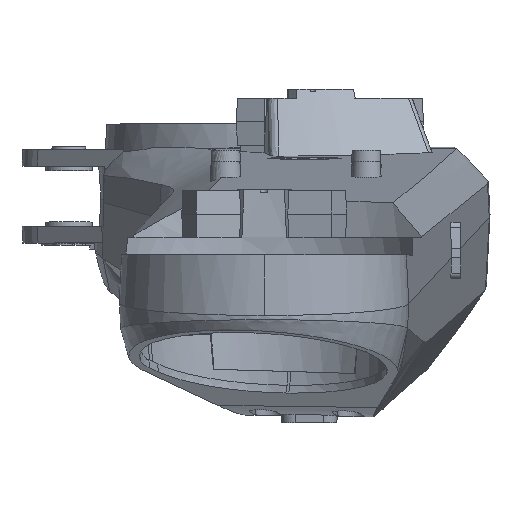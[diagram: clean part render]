
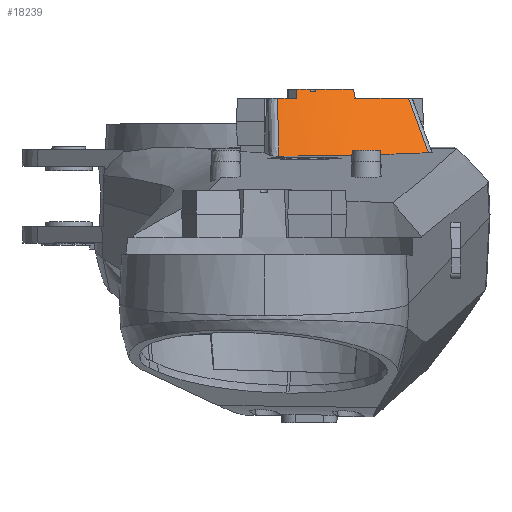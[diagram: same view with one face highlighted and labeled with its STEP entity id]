
A CAD part, top view. The second image highlights one B-rep face of the part: STEP entity #18239.
In plain terms, the highlighted conical face has half-angle 30 degrees and reference radius 286 mm.
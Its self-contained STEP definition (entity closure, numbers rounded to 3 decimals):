
#270 = CARTESIAN_POINT ( 'NONE',  ( 480.838, -108.257, 1029.136 ) ) ;
#528 = VERTEX_POINT ( 'NONE', #1010 ) ;
#742 = CARTESIAN_POINT ( 'NONE',  ( 334.584, -107.32, 1075.64 ) ) ;
#1010 = CARTESIAN_POINT ( 'NONE',  ( 334.154, -90., 1065.65 ) ) ;
#1229 = DIRECTION ( 'NONE',  ( 1., 0., 0. ) ) ;
#2247 = VERTEX_POINT ( 'NONE', #20895 ) ;
#2693 = CIRCLE ( 'NONE', #19012, 280.226 ) ;
#3782 = CARTESIAN_POINT ( 'NONE',  ( 354.605, -80., 1058.082 ) ) ;
#3928 = CARTESIAN_POINT ( 'NONE',  ( 487.899, -127.616, 1037.879 ) ) ;
#4021 = CARTESIAN_POINT ( 'NONE',  ( 354.773, -86.667, 1061.939 ) ) ;
#4263 = CARTESIAN_POINT ( 'NONE',  ( 369.513, -83., 1057.577 ) ) ;
#4275 = EDGE_CURVE ( 'NONE', #17593, #12402, #15881, .T. ) ;
#4629 = CARTESIAN_POINT ( 'NONE',  ( 334.154, -90., 1065.65 ) ) ;
#5232 = CIRCLE ( 'NONE', #13001, 281.959 ) ;
#5455 = CARTESIAN_POINT ( 'NONE',  ( 369.513, -82., 1056.991 ) ) ;
#5495 = B_SPLINE_CURVE_WITH_KNOTS ( 'NONE', 3,
 ( #15692, #39010, #5455, #5683 ),
 .UNSPECIFIED., .F., .F.,
 ( 4, 4 ),
 ( 0.077, 0.08 ),
 .UNSPECIFIED. ) ;
#5497 = CARTESIAN_POINT ( 'NONE',  ( 320., -83., 780. ) ) ;
#5588 = EDGE_CURVE ( 'NONE', #26922, #2247, #39553, .T. ) ;
#5618 = VERTEX_POINT ( 'NONE', #15108 ) ;
#5683 = CARTESIAN_POINT ( 'NONE',  ( 369.513, -83., 1057.577 ) ) ;
#5881 = CIRCLE ( 'NONE', #44769, 286. ) ;
#6285 = ORIENTED_EDGE ( 'NONE', *, *, #4275, .F. ) ;
#6429 = LINE ( 'NONE', #28810, #40042 ) ;
#6474 = CONICAL_SURFACE ( 'NONE', #25897, 286., 0.524 ) ;
#6539 = CARTESIAN_POINT ( 'NONE',  ( 320., -90., 780. ) ) ;
#7809 = ORIENTED_EDGE ( 'NONE', *, *, #42385, .F. ) ;
#7839 = DIRECTION ( 'NONE',  ( -1., 0., 0. ) ) ;
#8059 = EDGE_CURVE ( 'NONE', #42364, #43489, #6429, .T. ) ;
#8425 = AXIS2_PLACEMENT_3D ( 'NONE', #16544, #35517, #1229 ) ;
#9005 = VERTEX_POINT ( 'NONE', #4263 ) ;
#9262 = EDGE_CURVE ( 'NONE', #528, #9921, #28204, .T. ) ;
#9586 = DIRECTION ( 'NONE',  ( 0.17, -0.866, 0.47 ) ) ;
#9663 = ORIENTED_EDGE ( 'NONE', *, *, #35310, .T. ) ;
#9914 = ORIENTED_EDGE ( 'NONE', *, *, #32998, .T. ) ;
#9921 = VERTEX_POINT ( 'NONE', #42025 ) ;
#10389 = DIRECTION ( 'NONE',  ( 0., -1., 0. ) ) ;
#11290 = B_SPLINE_CURVE_WITH_KNOTS ( 'NONE', 3,
 ( #3782, #22761, #4021, #18637 ),
 .UNSPECIFIED., .F., .F.,
 ( 4, 4 ),
 ( 0.086, 0.097 ),
 .UNSPECIFIED. ) ;
#12402 = VERTEX_POINT ( 'NONE', #21432 ) ;
#13001 = AXIS2_PLACEMENT_3D ( 'NONE', #5497, #34463, #38823 ) ;
#13700 = CARTESIAN_POINT ( 'NONE',  ( 495.354, -148.077, 1047.116 ) ) ;
#14273 = CARTESIAN_POINT ( 'NONE',  ( 320., -90., 780. ) ) ;
#15108 = CARTESIAN_POINT ( 'NONE',  ( 374.513, -83., 1056.639 ) ) ;
#15692 = CARTESIAN_POINT ( 'NONE',  ( 369.513, -80., 1055.818 ) ) ;
#15881 = CIRCLE ( 'NONE', #27546, 280.226 ) ;
#15981 = CARTESIAN_POINT ( 'NONE',  ( 320., -80., 780. ) ) ;
#16090 = CARTESIAN_POINT ( 'NONE',  ( 320., -80., 780. ) ) ;
#16494 = CARTESIAN_POINT ( 'NONE',  ( 374.513, -83., 1056.639 ) ) ;
#16544 = CARTESIAN_POINT ( 'NONE',  ( 320., -90., 780. ) ) ;
#16734 = CARTESIAN_POINT ( 'NONE',  ( 374.513, -81., 1055.462 ) ) ;
#17355 = CARTESIAN_POINT ( 'NONE',  ( 415.335, -80., 1043.511 ) ) ;
#17593 = VERTEX_POINT ( 'NONE', #31486 ) ;
#17707 = CARTESIAN_POINT ( 'NONE',  ( 374.513, -80., 1054.873 ) ) ;
#18239 = ADVANCED_FACE ( 'NONE', ( #47610 ), #6474, .T. ) ;
#18637 = CARTESIAN_POINT ( 'NONE',  ( 354.857, -90., 1063.868 ) ) ;
#18781 = CARTESIAN_POINT ( 'NONE',  ( 474.174, -90., 1020.887 ) ) ;
#19012 = AXIS2_PLACEMENT_3D ( 'NONE', #16090, #30920, #7839 ) ;
#20028 =( BOUNDED_CURVE ( )  B_SPLINE_CURVE ( 3, ( #13700, #28541, #35843, #46549 ),
 .UNSPECIFIED., .F., .T. ) 
 B_SPLINE_CURVE_WITH_KNOTS ( ( 4, 4 ),
 ( 5.68, 6.232 ),
 .UNSPECIFIED. ) 
 CURVE ( )  GEOMETRIC_REPRESENTATION_ITEM ( )  RATIONAL_B_SPLINE_CURVE ( ( 1., 0.975, 0.975, 1. ) ) 
 REPRESENTATION_ITEM ( '' )  );
#20054 = ORIENTED_EDGE ( 'NONE', *, *, #8059, .F. ) ;
#20127 = DIRECTION ( 'NONE',  ( -1., 0., 0. ) ) ;
#20895 = CARTESIAN_POINT ( 'NONE',  ( 474.174, -90., 1020.887 ) ) ;
#21432 = CARTESIAN_POINT ( 'NONE',  ( 369.513, -80., 1055.818 ) ) ;
#22021 = EDGE_CURVE ( 'NONE', #43193, #42364, #2693, .T. ) ;
#22423 = CARTESIAN_POINT ( 'NONE',  ( 335.688, -151.771, 1101.281 ) ) ;
#22430 = CARTESIAN_POINT ( 'NONE',  ( 495.354, -148.077, 1047.116 ) ) ;
#22665 = CARTESIAN_POINT ( 'NONE',  ( 334.297, -95.773, 1068.98 ) ) ;
#22761 = CARTESIAN_POINT ( 'NONE',  ( 354.689, -83.333, 1060.01 ) ) ;
#23137 = CARTESIAN_POINT ( 'NONE',  ( 334.952, -122.137, 1084.187 ) ) ;
#25897 = AXIS2_PLACEMENT_3D ( 'NONE', #14273, #10389, #32280 ) ;
#26922 = VERTEX_POINT ( 'NONE', #40273 ) ;
#27176 = DIRECTION ( 'NONE',  ( 0., 1., 0. ) ) ;
#27546 = AXIS2_PLACEMENT_3D ( 'NONE', #15981, #27176, #20127 ) ;
#28165 = EDGE_CURVE ( 'NONE', #34880, #528, #5881, .T. ) ;
#28204 = B_SPLINE_CURVE_WITH_KNOTS ( 'NONE', 3,
 ( #4629, #22665, #41609, #742, #23137, #30176, #22423 ),
 .UNSPECIFIED., .F., .F.,
 ( 4, 3, 4 ),
 ( 0., 0.02, 0.071 ),
 .UNSPECIFIED. ) ;
#28541 = CARTESIAN_POINT ( 'NONE',  ( 447.866, -150.308, 1079.831 ) ) ;
#28810 = CARTESIAN_POINT ( 'NONE',  ( 320., 405.367, 780. ) ) ;
#28920 = DIRECTION ( 'NONE',  ( 0., -1., 0. ) ) ;
#30171 = CIRCLE ( 'NONE', #8425, 286. ) ;
#30176 = CARTESIAN_POINT ( 'NONE',  ( 335.32, -136.954, 1092.734 ) ) ;
#30647 = EDGE_CURVE ( 'NONE', #12402, #9005, #5495, .T. ) ;
#30920 = DIRECTION ( 'NONE',  ( 0., 1., 0. ) ) ;
#30994 = ORIENTED_EDGE ( 'NONE', *, *, #5588, .T. ) ;
#31318 = CARTESIAN_POINT ( 'NONE',  ( 374.513, -82., 1056.05 ) ) ;
#31486 = CARTESIAN_POINT ( 'NONE',  ( 354.605, -80., 1058.082 ) ) ;
#32280 = DIRECTION ( 'NONE',  ( 1., 0., 0. ) ) ;
#32998 = EDGE_CURVE ( 'NONE', #17593, #34880, #11290, .T. ) ;
#33518 = ORIENTED_EDGE ( 'NONE', *, *, #28165, .T. ) ;
#34463 = DIRECTION ( 'NONE',  ( 0., -1., 0. ) ) ;
#34880 = VERTEX_POINT ( 'NONE', #34984 ) ;
#34982 = EDGE_CURVE ( 'NONE', #5618, #43193, #41331, .T. ) ;
#34984 = CARTESIAN_POINT ( 'NONE',  ( 354.857, -90., 1063.868 ) ) ;
#35310 = EDGE_CURVE ( 'NONE', #5618, #9005, #5232, .T. ) ;
#35517 = DIRECTION ( 'NONE',  ( 0., -1., 0. ) ) ;
#35654 = ORIENTED_EDGE ( 'NONE', *, *, #30647, .F. ) ;
#35843 = CARTESIAN_POINT ( 'NONE',  ( 393.266, -151.571, 1098.354 ) ) ;
#38823 = DIRECTION ( 'NONE',  ( 1., 0., 0. ) ) ;
#39010 = CARTESIAN_POINT ( 'NONE',  ( 369.513, -81., 1056.404 ) ) ;
#39088 = EDGE_CURVE ( 'NONE', #2247, #43489, #30171, .T. ) ;
#39553 = B_SPLINE_CURVE_WITH_KNOTS ( 'NONE', 3,
 ( #22430, #3928, #270, #18781 ),
 .UNSPECIFIED., .F., .F.,
 ( 4, 4 ),
 ( 0., 1. ),
 .UNSPECIFIED. ) ;
#39952 = EDGE_LOOP ( 'NONE', ( #46979, #9663, #35654, #6285, #9914, #33518, #47991, #7809, #30994, #40188, #20054, #46597 ) ) ;
#40042 = VECTOR ( 'NONE', #9586, 1000. ) ;
#40188 = ORIENTED_EDGE ( 'NONE', *, *, #39088, .T. ) ;
#40273 = CARTESIAN_POINT ( 'NONE',  ( 495.354, -148.077, 1047.116 ) ) ;
#41331 = B_SPLINE_CURVE_WITH_KNOTS ( 'NONE', 3,
 ( #16494, #31318, #16734, #17707 ),
 .UNSPECIFIED., .F., .F.,
 ( 4, 4 ),
 ( 0.08, 0.084 ),
 .UNSPECIFIED. ) ;
#41549 = CARTESIAN_POINT ( 'NONE',  ( 417.3, -90., 1048.94 ) ) ;
#41609 = CARTESIAN_POINT ( 'NONE',  ( 334.44, -101.547, 1072.31 ) ) ;
#42025 = CARTESIAN_POINT ( 'NONE',  ( 335.688, -151.771, 1101.281 ) ) ;
#42364 = VERTEX_POINT ( 'NONE', #17355 ) ;
#42385 = EDGE_CURVE ( 'NONE', #26922, #9921, #20028, .T. ) ;
#42558 = CARTESIAN_POINT ( 'NONE',  ( 374.513, -80., 1054.873 ) ) ;
#43193 = VERTEX_POINT ( 'NONE', #42558 ) ;
#43489 = VERTEX_POINT ( 'NONE', #41549 ) ;
#43758 = DIRECTION ( 'NONE',  ( 1., 0., 0. ) ) ;
#44769 = AXIS2_PLACEMENT_3D ( 'NONE', #6539, #28920, #43758 ) ;
#46549 = CARTESIAN_POINT ( 'NONE',  ( 335.688, -151.771, 1101.281 ) ) ;
#46597 = ORIENTED_EDGE ( 'NONE', *, *, #22021, .F. ) ;
#46979 = ORIENTED_EDGE ( 'NONE', *, *, #34982, .F. ) ;
#47610 = FACE_OUTER_BOUND ( 'NONE', #39952, .T. ) ;
#47991 = ORIENTED_EDGE ( 'NONE', *, *, #9262, .T. ) ;
